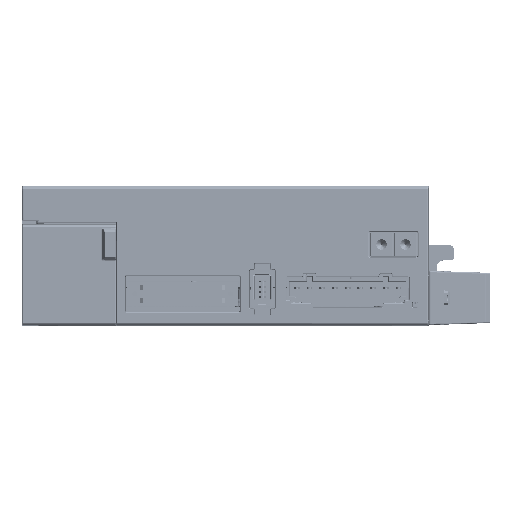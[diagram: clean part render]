
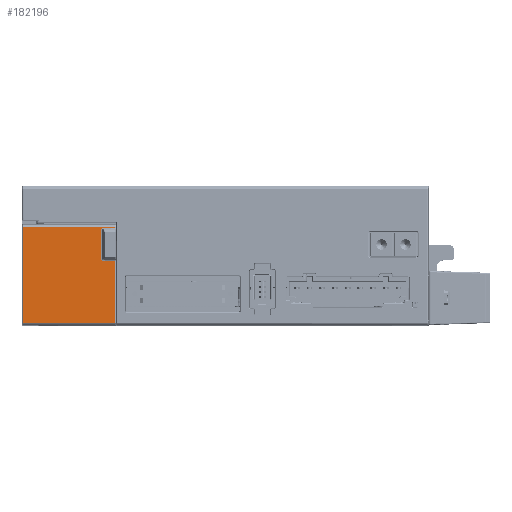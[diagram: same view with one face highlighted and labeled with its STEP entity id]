
A CAD part, front view. The second image highlights one B-rep face of the part: STEP entity #182196.
In plain terms, the highlighted planar face has unit normal (0, -1, 0).
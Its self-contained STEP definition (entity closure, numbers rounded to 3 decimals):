
#176498=DIRECTION('',(0.,0.,1.));
#176499=VECTOR('',#176498,37.586);
#176500=CARTESIAN_POINT('',(-79.461,-73.,-4.993));
#176501=LINE('',#176500,#176499);
#176640=DIRECTION('',(1.,0.,0.));
#176641=VECTOR('',#176640,36.104);
#176642=CARTESIAN_POINT('',(-79.461,-73.,32.593));
#176643=LINE('',#176642,#176641);
#176652=DIRECTION('',(-1.,0.,0.));
#176653=VECTOR('',#176652,36.104);
#176654=CARTESIAN_POINT('',(-43.357,-73.,-4.993));
#176655=LINE('',#176654,#176653);
#179060=DIRECTION('',(0.,0.,-1.));
#179061=VECTOR('',#179060,0.451);
#179062=CARTESIAN_POINT('',(-43.357,-73.,32.593));
#179063=LINE('',#179062,#179061);
#179212=DIRECTION('',(0.,0.,-1.));
#179213=VECTOR('',#179212,24.451);
#179214=CARTESIAN_POINT('',(-43.357,-73.,19.458));
#179215=LINE('',#179214,#179213);
#179249=DIRECTION('',(1.,0.,0.));
#179250=VECTOR('',#179249,4.937);
#179251=CARTESIAN_POINT('',(-48.294,-73.,19.458));
#179252=LINE('',#179251,#179250);
#179257=CARTESIAN_POINT('',(-48.817,-73.,19.95));
#179258=CARTESIAN_POINT('',(-48.817,-73.,19.898));
#179259=CARTESIAN_POINT('',(-48.801,-73.,19.799));
#179260=CARTESIAN_POINT('',(-48.728,-73.,19.66));
#179261=CARTESIAN_POINT('',(-48.614,-73.,19.55));
#179262=CARTESIAN_POINT('',(-48.466,-73.,19.476));
#179263=CARTESIAN_POINT('',(-48.354,-73.,19.459));
#179264=CARTESIAN_POINT('',(-48.294,-73.,19.458));
#179280=DIRECTION('',(0.,0.,-1.));
#179281=VECTOR('',#179280,11.701);
#179282=CARTESIAN_POINT('',(-48.817,-73.,31.65));
#179283=LINE('',#179282,#179281);
#179289=CARTESIAN_POINT('',(-48.294,-73.,32.142));
#179290=CARTESIAN_POINT('',(-48.354,-73.,32.141));
#179291=CARTESIAN_POINT('',(-48.464,-73.,32.125));
#179292=CARTESIAN_POINT('',(-48.614,-73.,32.051));
#179293=CARTESIAN_POINT('',(-48.729,-73.,31.939));
#179294=CARTESIAN_POINT('',(-48.801,-73.,31.799));
#179295=CARTESIAN_POINT('',(-48.817,-73.,31.701));
#179296=CARTESIAN_POINT('',(-48.817,-73.,31.65));
#179507=DIRECTION('',(-1.,0.,0.));
#179508=VECTOR('',#179507,4.937);
#179509=CARTESIAN_POINT('',(-43.357,-73.,32.142));
#179510=LINE('',#179509,#179508);
#180418=CARTESIAN_POINT('',(-79.461,-73.,32.593));
#180419=CARTESIAN_POINT('',(-43.357,-73.,32.593));
#180420=VERTEX_POINT('',#180418);
#180421=VERTEX_POINT('',#180419);
#180422=CARTESIAN_POINT('',(-43.357,-73.,-4.993));
#180423=CARTESIAN_POINT('',(-79.461,-73.,-4.993));
#180424=VERTEX_POINT('',#180422);
#180425=VERTEX_POINT('',#180423);
#180426=CARTESIAN_POINT('',(-43.357,-73.,19.458));
#180427=VERTEX_POINT('',#180426);
#180428=CARTESIAN_POINT('',(-48.294,-73.,19.458));
#180429=VERTEX_POINT('',#180428);
#180430=VERTEX_POINT('',#179257);
#180431=CARTESIAN_POINT('',(-48.817,-73.,31.65));
#180432=VERTEX_POINT('',#180431);
#180433=VERTEX_POINT('',#179289);
#180434=CARTESIAN_POINT('',(-43.357,-73.,32.142));
#180435=VERTEX_POINT('',#180434);
#182171=CARTESIAN_POINT('',(-61.525,-73.,13.8));
#182172=DIRECTION('',(0.,1.,0.));
#182173=DIRECTION('',(0.,0.,-1.));
#182174=AXIS2_PLACEMENT_3D('',#182171,#182172,#182173);
#182175=PLANE('',#182174);
#182177=ORIENTED_EDGE('',*,*,#182176,.T.);
#182178=ORIENTED_EDGE('',*,*,#181857,.T.);
#182179=ORIENTED_EDGE('',*,*,#182155,.T.);
#182181=ORIENTED_EDGE('',*,*,#182180,.T.);
#182183=ORIENTED_EDGE('',*,*,#182182,.T.);
#182185=ORIENTED_EDGE('',*,*,#182184,.T.);
#182187=ORIENTED_EDGE('',*,*,#182186,.T.);
#182189=ORIENTED_EDGE('',*,*,#182188,.T.);
#182191=ORIENTED_EDGE('',*,*,#182190,.T.);
#182193=ORIENTED_EDGE('',*,*,#182192,.T.);
#182194=EDGE_LOOP('',(#182177,#182178,#182179,#182181,#182183,#182185,#182187,
#182189,#182191,#182193));
#182195=FACE_OUTER_BOUND('',#182194,.F.);
#182196=ADVANCED_FACE('',(#182195),#182175,.F.);
#179265=B_SPLINE_CURVE_WITH_KNOTS('',3,(#179257,#179258,#179259,#179260,#179261,
#179262,#179263,#179264),.UNSPECIFIED.,.F.,.F.,(4,1,1,1,1,4),(0.,0.2,0.4,
0.6,0.8,1.),.UNSPECIFIED.);
#179297=B_SPLINE_CURVE_WITH_KNOTS('',3,(#179289,#179290,#179291,#179292,#179293,
#179294,#179295,#179296),.UNSPECIFIED.,.F.,.F.,(4,1,1,1,1,4),(0.,0.2,0.4,
0.6,0.8,1.),.UNSPECIFIED.);
#181857=EDGE_CURVE('',#180425,#180420,#176501,.T.);
#182155=EDGE_CURVE('',#180420,#180421,#176643,.T.);
#182176=EDGE_CURVE('',#180424,#180425,#176655,.T.);
#182180=EDGE_CURVE('',#180421,#180435,#179063,.T.);
#182182=EDGE_CURVE('',#180435,#180433,#179510,.T.);
#182184=EDGE_CURVE('',#180433,#180432,#179297,.T.);
#182186=EDGE_CURVE('',#180432,#180430,#179283,.T.);
#182188=EDGE_CURVE('',#180430,#180429,#179265,.T.);
#182190=EDGE_CURVE('',#180429,#180427,#179252,.T.);
#182192=EDGE_CURVE('',#180427,#180424,#179215,.T.);
